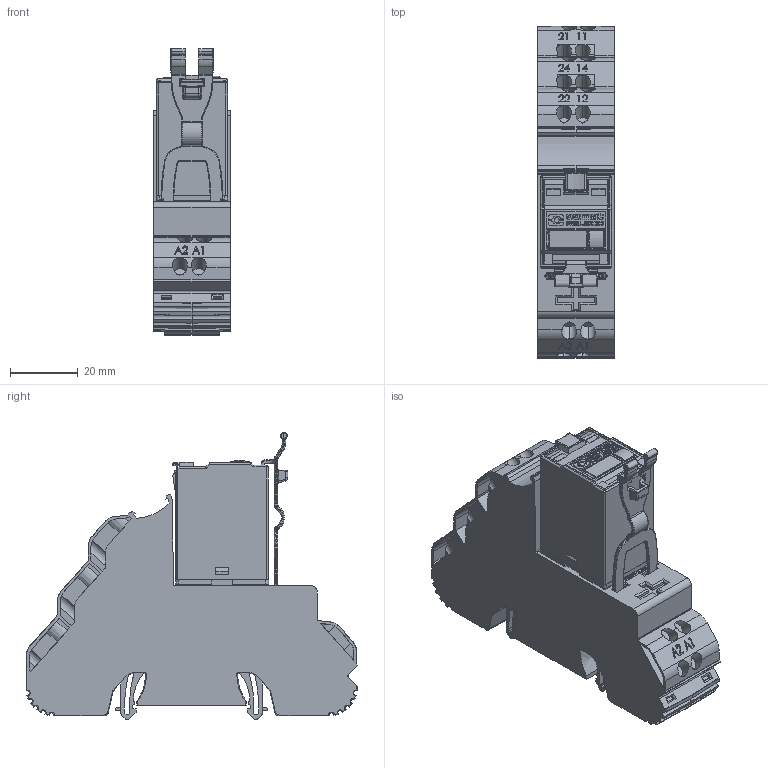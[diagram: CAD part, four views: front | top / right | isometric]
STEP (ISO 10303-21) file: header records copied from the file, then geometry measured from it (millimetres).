
FILE_DESCRIPTION (( 'STEP AP214' ), '1' );
FILE_NAME ('S7-PI+C7.STEP', '2020-11-19T12:13:38', ( '' ), ( '' ), 'SwSTEP 2.0', 'SolidWorks 2016', '' );
FILE_SCHEMA (( 'AUTOMOTIVE_DESIGN' ));
Length unit declared in the file: millimetre
Products named in the file (1): S7-PI+C7
Bounding box: 22.5 x 97.67 x 84.44 mm (x, y, z)
Volume: 85581.5 mm3; surface area: 32928.8 mm2
Topology: 7 solids, 7 shells, 2278 faces, 6139 edges, 3964 vertices
Faces by surface type: plane 1400, bspline 398, cylinder 354, cone 83, torus 24, sphere 19
Entity records: 106504 total; most frequent: CARTESIAN_POINT 27736, ORIENTED_EDGE 12238, DIRECTION 9363, EDGE_CURVE 6119, LINE 4253, VECTOR 4253, VERTEX_POINT 3959, AXIS2_PLACEMENT_3D 2555
